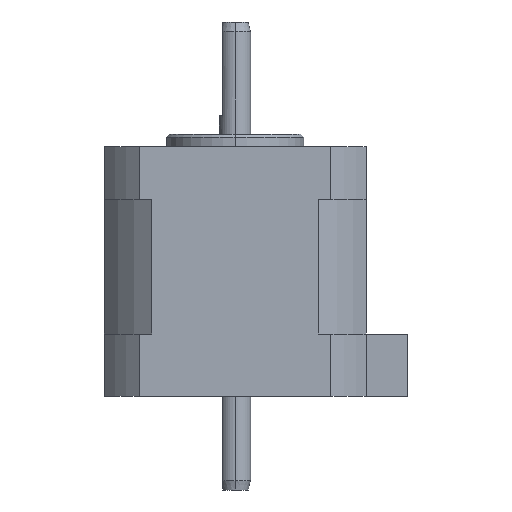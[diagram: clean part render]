
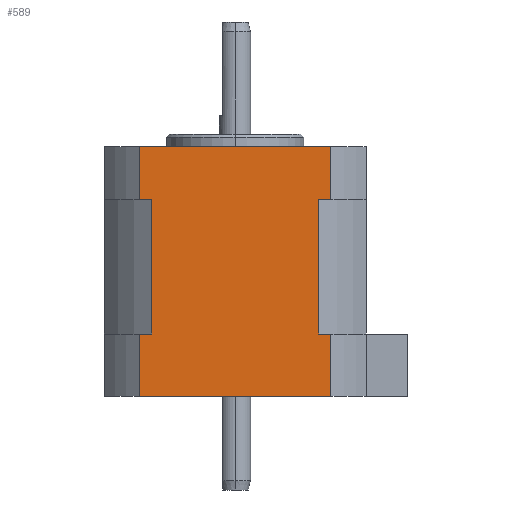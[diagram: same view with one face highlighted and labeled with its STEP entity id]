
A CAD part, left-side view. The second image highlights one B-rep face of the part: STEP entity #589.
In plain terms, the highlighted planar face has unit normal (-1, 0, 0).
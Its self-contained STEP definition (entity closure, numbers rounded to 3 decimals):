
#60 = EDGE_CURVE ( 'NONE', #820, #791, #1436, .T. ) ;
#66 = CARTESIAN_POINT ( 'NONE',  ( -21., 21., -10.5 ) ) ;
#126 = VERTEX_POINT ( 'NONE', #815 ) ;
#133 = EDGE_CURVE ( 'NONE', #1923, #2007, #1779, .T. ) ;
#151 = DIRECTION ( 'NONE',  ( 0., 1., 0. ) ) ;
#152 = EDGE_CURVE ( 'NONE', #791, #1219, #460, .T. ) ;
#162 = EDGE_CURVE ( 'NONE', #2007, #349, #648, .T. ) ;
#166 = DIRECTION ( 'NONE',  ( 0., 1., 0. ) ) ;
#172 = ORIENTED_EDGE ( 'NONE', *, *, #60, .T. ) ;
#187 = FACE_OUTER_BOUND ( 'NONE', #255, .T. ) ;
#205 = EDGE_CURVE ( 'NONE', #349, #1538, #1365, .T. ) ;
#222 = CARTESIAN_POINT ( 'NONE',  ( -21., -13.379, -32. ) ) ;
#255 = EDGE_LOOP ( 'NONE', ( #964, #293, #718, #1938, #1795, #1985, #1056, #172, #1112, #1699, #706, #1160 ) ) ;
#270 = CARTESIAN_POINT ( 'NONE',  ( -21., 13.379, -10.5 ) ) ;
#288 = PLANE ( 'NONE',  #476 ) ;
#293 = ORIENTED_EDGE ( 'NONE', *, *, #162, .F. ) ;
#297 = EDGE_CURVE ( 'NONE', #2054, #1219, #1858, .T. ) ;
#305 = VECTOR ( 'NONE', #1658, 1000. ) ;
#349 = VERTEX_POINT ( 'NONE', #1255 ) ;
#394 = CARTESIAN_POINT ( 'NONE',  ( -21., 21., -2. ) ) ;
#410 = CARTESIAN_POINT ( 'NONE',  ( -21., 21., -10.5 ) ) ;
#460 = LINE ( 'NONE', #222, #1851 ) ;
#476 = AXIS2_PLACEMENT_3D ( 'NONE', #66, #1934, #1751 ) ;
#489 = VECTOR ( 'NONE', #1332, 1000. ) ;
#497 = VERTEX_POINT ( 'NONE', #1798 ) ;
#531 = VECTOR ( 'NONE', #1402, 1000. ) ;
#567 = VECTOR ( 'NONE', #1028, 1000. ) ;
#589 = ADVANCED_FACE ( 'NONE', ( #187 ), #288, .F. ) ;
#638 = LINE ( 'NONE', #394, #2040 ) ;
#648 = LINE ( 'NONE', #410, #1370 ) ;
#677 = EDGE_CURVE ( 'NONE', #1381, #2054, #1715, .T. ) ;
#684 = VECTOR ( 'NONE', #1476, 1000. ) ;
#706 = ORIENTED_EDGE ( 'NONE', *, *, #677, .F. ) ;
#718 = ORIENTED_EDGE ( 'NONE', *, *, #133, .F. ) ;
#755 = CARTESIAN_POINT ( 'NONE',  ( -21., -13.379, -32. ) ) ;
#770 = EDGE_CURVE ( 'NONE', #1381, #1538, #638, .T. ) ;
#791 = VERTEX_POINT ( 'NONE', #755 ) ;
#815 = CARTESIAN_POINT ( 'NONE',  ( -21., 15.33, -42. ) ) ;
#820 = VERTEX_POINT ( 'NONE', #1106 ) ;
#888 = EDGE_CURVE ( 'NONE', #126, #497, #2032, .T. ) ;
#915 = VECTOR ( 'NONE', #959, 1000. ) ;
#939 = CARTESIAN_POINT ( 'NONE',  ( -21., -15.33, -10.5 ) ) ;
#959 = DIRECTION ( 'NONE',  ( 0., 0., 1. ) ) ;
#964 = ORIENTED_EDGE ( 'NONE', *, *, #205, .F. ) ;
#1028 = DIRECTION ( 'NONE',  ( 0., 1., 0. ) ) ;
#1034 = CARTESIAN_POINT ( 'NONE',  ( -21., 13.379, -32. ) ) ;
#1056 = ORIENTED_EDGE ( 'NONE', *, *, #1935, .T. ) ;
#1106 = CARTESIAN_POINT ( 'NONE',  ( -21., -15.33, -32. ) ) ;
#1112 = ORIENTED_EDGE ( 'NONE', *, *, #152, .T. ) ;
#1146 = VERTEX_POINT ( 'NONE', #1153 ) ;
#1153 = CARTESIAN_POINT ( 'NONE',  ( -21., -15.33, -42. ) ) ;
#1160 = ORIENTED_EDGE ( 'NONE', *, *, #770, .T. ) ;
#1167 = CARTESIAN_POINT ( 'NONE',  ( -21., 15.33, -36. ) ) ;
#1208 = CARTESIAN_POINT ( 'NONE',  ( -21., -13.379, -10.5 ) ) ;
#1219 = VERTEX_POINT ( 'NONE', #1208 ) ;
#1223 = DIRECTION ( 'NONE',  ( 0., 1., 0. ) ) ;
#1245 = CARTESIAN_POINT ( 'NONE',  ( -21., 13.379, -32. ) ) ;
#1255 = CARTESIAN_POINT ( 'NONE',  ( -21., 15.33, -10.5 ) ) ;
#1332 = DIRECTION ( 'NONE',  ( 0., 0., -1. ) ) ;
#1357 = EDGE_CURVE ( 'NONE', #1923, #497, #1607, .T. ) ;
#1365 = LINE ( 'NONE', #1167, #915 ) ;
#1370 = VECTOR ( 'NONE', #166, 1000. ) ;
#1374 = VECTOR ( 'NONE', #1584, 1000. ) ;
#1381 = VERTEX_POINT ( 'NONE', #1940 ) ;
#1402 = DIRECTION ( 'NONE',  ( 0., 0., 1. ) ) ;
#1420 = CARTESIAN_POINT ( 'NONE',  ( -21., 13.379, -32. ) ) ;
#1436 = LINE ( 'NONE', #1245, #567 ) ;
#1476 = DIRECTION ( 'NONE',  ( 0., 1., 0. ) ) ;
#1511 = EDGE_CURVE ( 'NONE', #1146, #126, #2039, .T. ) ;
#1523 = CARTESIAN_POINT ( 'NONE',  ( -21., -15.33, -36. ) ) ;
#1538 = VERTEX_POINT ( 'NONE', #1996 ) ;
#1584 = DIRECTION ( 'NONE',  ( 0., 0., 1. ) ) ;
#1589 = CARTESIAN_POINT ( 'NONE',  ( -21., 13.379, -32. ) ) ;
#1602 = VECTOR ( 'NONE', #1669, 1000. ) ;
#1607 = LINE ( 'NONE', #1420, #1936 ) ;
#1658 = DIRECTION ( 'NONE',  ( 0., 0., 1. ) ) ;
#1669 = DIRECTION ( 'NONE',  ( 0., 1., 0. ) ) ;
#1672 = CARTESIAN_POINT ( 'NONE',  ( -21., 21., -10.5 ) ) ;
#1699 = ORIENTED_EDGE ( 'NONE', *, *, #297, .F. ) ;
#1715 = LINE ( 'NONE', #1523, #489 ) ;
#1751 = DIRECTION ( 'NONE',  ( 0., 1., 0. ) ) ;
#1774 = CARTESIAN_POINT ( 'NONE',  ( -21., -15.33, -42. ) ) ;
#1779 = LINE ( 'NONE', #1589, #531 ) ;
#1795 = ORIENTED_EDGE ( 'NONE', *, *, #888, .F. ) ;
#1798 = CARTESIAN_POINT ( 'NONE',  ( -21., 15.33, -32. ) ) ;
#1847 = CARTESIAN_POINT ( 'NONE',  ( -21., 15.33, -42. ) ) ;
#1851 = VECTOR ( 'NONE', #2062, 1000. ) ;
#1856 = CARTESIAN_POINT ( 'NONE',  ( -21., -15.33, -42. ) ) ;
#1858 = LINE ( 'NONE', #1672, #684 ) ;
#1923 = VERTEX_POINT ( 'NONE', #1034 ) ;
#1934 = DIRECTION ( 'NONE',  ( 1., 0., 0. ) ) ;
#1935 = EDGE_CURVE ( 'NONE', #1146, #820, #1963, .T. ) ;
#1936 = VECTOR ( 'NONE', #1223, 1000. ) ;
#1938 = ORIENTED_EDGE ( 'NONE', *, *, #1357, .T. ) ;
#1940 = CARTESIAN_POINT ( 'NONE',  ( -21., -15.33, -2. ) ) ;
#1963 = LINE ( 'NONE', #1774, #1374 ) ;
#1985 = ORIENTED_EDGE ( 'NONE', *, *, #1511, .F. ) ;
#1996 = CARTESIAN_POINT ( 'NONE',  ( -21., 15.33, -2. ) ) ;
#2007 = VERTEX_POINT ( 'NONE', #270 ) ;
#2032 = LINE ( 'NONE', #1847, #305 ) ;
#2039 = LINE ( 'NONE', #1856, #1602 ) ;
#2040 = VECTOR ( 'NONE', #151, 1000. ) ;
#2054 = VERTEX_POINT ( 'NONE', #939 ) ;
#2062 = DIRECTION ( 'NONE',  ( 0., 0., 1. ) ) ;
